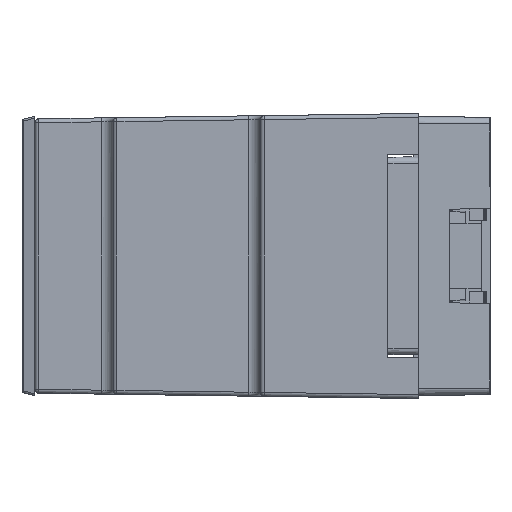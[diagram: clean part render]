
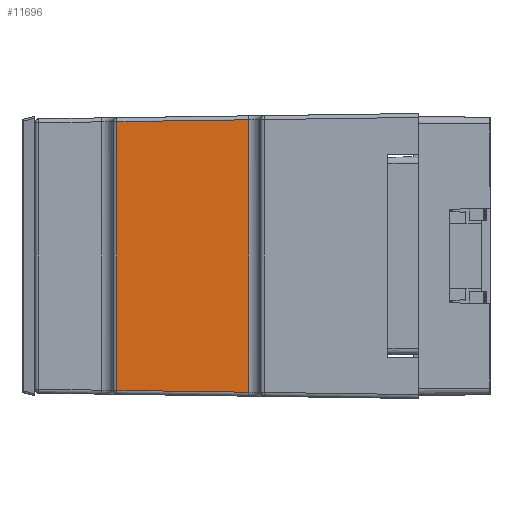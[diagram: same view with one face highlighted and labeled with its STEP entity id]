
A CAD part, left-side view. The second image highlights one B-rep face of the part: STEP entity #11696.
In plain terms, the highlighted planar face has unit normal (-1, 0.018, 0).
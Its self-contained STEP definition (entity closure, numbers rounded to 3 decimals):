
#1225 = LINE ( 'NONE', #10375, #4069 ) ;
#2296 = VECTOR ( 'NONE', #7180, 1000. ) ;
#2423 = FACE_OUTER_BOUND ( 'NONE', #5400, .T. ) ;
#2735 = CARTESIAN_POINT ( 'NONE',  ( -30.4, -0.007, 35.5 ) ) ;
#2833 = DIRECTION ( 'NONE',  ( 0.017, 1., -0.014 ) ) ;
#3875 = ORIENTED_EDGE ( 'NONE', *, *, #10436, .T. ) ;
#3990 = DIRECTION ( 'NONE',  ( -1., 0.017, 0. ) ) ;
#4069 = VECTOR ( 'NONE', #16084, 1000. ) ;
#5389 = LINE ( 'NONE', #11368, #2296 ) ;
#5400 = EDGE_LOOP ( 'NONE', ( #19118, #6576, #3875, #12976 ) ) ;
#6479 = AXIS2_PLACEMENT_3D ( 'NONE', #12937, #3990, #15705 ) ;
#6576 = ORIENTED_EDGE ( 'NONE', *, *, #16689, .T. ) ;
#6703 = VERTEX_POINT ( 'NONE', #9222 ) ;
#7180 = DIRECTION ( 'NONE',  ( -0.017, -1., -0.014 ) ) ;
#7373 = EDGE_CURVE ( 'NONE', #6703, #19097, #5389, .T. ) ;
#8619 = DIRECTION ( 'NONE',  ( 0., 0., -1. ) ) ;
#8644 = EDGE_CURVE ( 'NONE', #19097, #19534, #1225, .T. ) ;
#9222 = CARTESIAN_POINT ( 'NONE',  ( -29.735, 38.109, 1.032 ) ) ;
#9477 = CARTESIAN_POINT ( 'NONE',  ( -30.025, 21.474, 35.2 ) ) ;
#9791 = CARTESIAN_POINT ( 'NONE',  ( -30.025, 21.474, 0.8 ) ) ;
#10375 = CARTESIAN_POINT ( 'NONE',  ( -30.025, 21.474, 35.721 ) ) ;
#10436 = EDGE_CURVE ( 'NONE', #18693, #6703, #16530, .T. ) ;
#11367 = PLANE ( 'NONE',  #6479 ) ;
#11368 = CARTESIAN_POINT ( 'NONE',  ( -30.025, 21.467, 0.8 ) ) ;
#11696 = ADVANCED_FACE ( 'NONE', ( #2423 ), #11367, .T. ) ;
#11717 = CARTESIAN_POINT ( 'NONE',  ( -29.735, 38.109, 36. ) ) ;
#12937 = CARTESIAN_POINT ( 'NONE',  ( -30.4, 0., 36. ) ) ;
#12976 = ORIENTED_EDGE ( 'NONE', *, *, #7373, .T. ) ;
#15705 = DIRECTION ( 'NONE',  ( -0.017, -1., 0. ) ) ;
#16084 = DIRECTION ( 'NONE',  ( 0., 0., 1. ) ) ;
#16530 = LINE ( 'NONE', #11717, #17415 ) ;
#16689 = EDGE_CURVE ( 'NONE', #19534, #18693, #19073, .T. ) ;
#17109 = CARTESIAN_POINT ( 'NONE',  ( -29.735, 38.109, 34.968 ) ) ;
#17415 = VECTOR ( 'NONE', #8619, 1000. ) ;
#18693 = VERTEX_POINT ( 'NONE', #17109 ) ;
#19073 = LINE ( 'NONE', #2735, #19418 ) ;
#19097 = VERTEX_POINT ( 'NONE', #9791 ) ;
#19118 = ORIENTED_EDGE ( 'NONE', *, *, #8644, .T. ) ;
#19418 = VECTOR ( 'NONE', #2833, 1000. ) ;
#19534 = VERTEX_POINT ( 'NONE', #9477 ) ;
